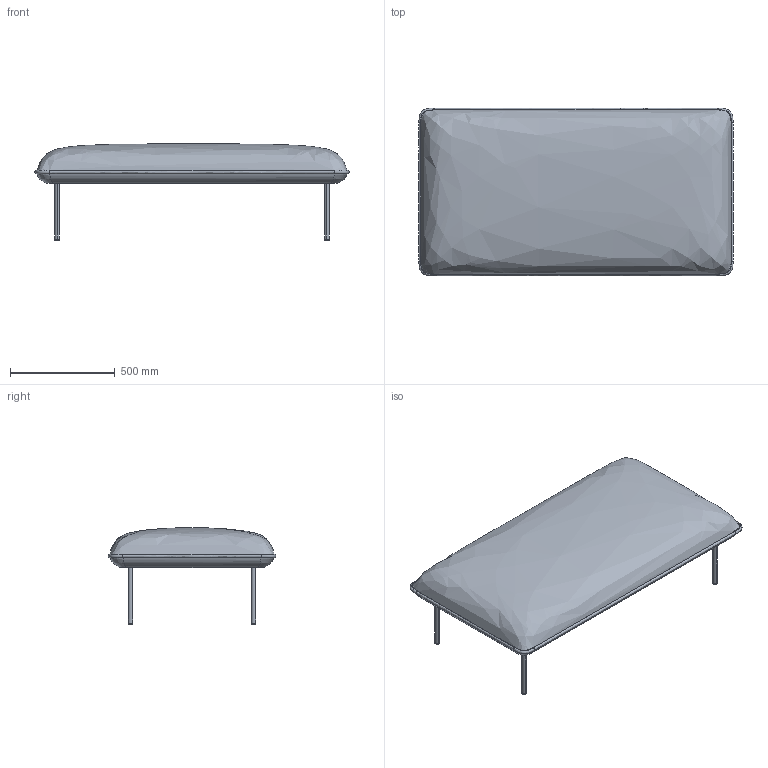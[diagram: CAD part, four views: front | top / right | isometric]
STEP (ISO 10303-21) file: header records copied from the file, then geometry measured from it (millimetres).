
FILE_DESCRIPTION(/* description */ (''),/* implementation_level */ '2;1');
FILE_NAME(/* name */ 'Nakki long ottoman',/* time_stamp */ '2020-04-03T17:10:51+02:00',/* author */ (''),/* organization */ (''),/* preprocessor_version */ 'ST-DEVELOPER v15',/* originating_system */ '',/* authorisation */ '');
FILE_SCHEMA (('AUTOMOTIVE_DESIGN'));
Length unit declared in the file: millimetre
Products named in the file (1): Document
Bounding box: 1500 x 800 x 459.24 mm (x, y, z)
Volume: 187977523.2 mm3; surface area: 3049633.3 mm2
Topology: 10 solids, 10 shells, 74 faces, 144 edges, 88 vertices
Faces by surface type: bspline 74
Entity records: 12615 total; most frequent: CARTESIAN_POINT 10763, B_SPLINE_CURVE_WITH_KNOTS 295, ORIENTED_EDGE 288, PCURVE 288, DEFINITIONAL_REPRESENTATION 288, SURFACE_CURVE 144, EDGE_CURVE 144, VERTEX_POINT 88
